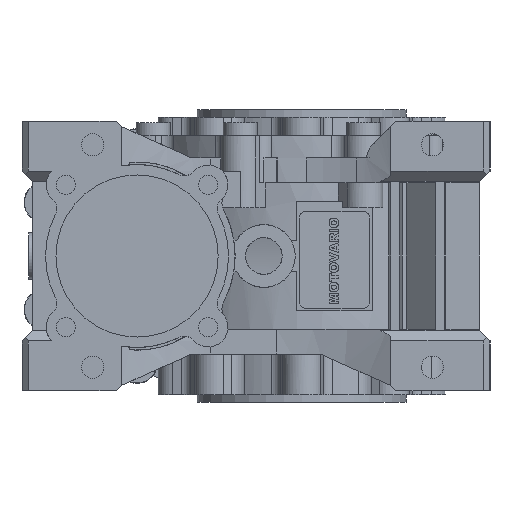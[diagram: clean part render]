
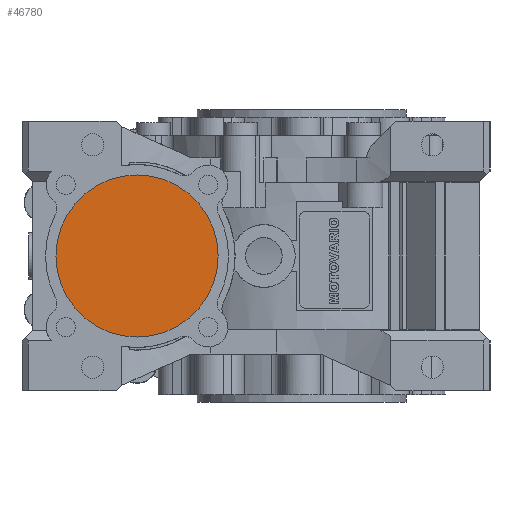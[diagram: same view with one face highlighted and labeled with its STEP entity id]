
A CAD part, left-side view. The second image highlights one B-rep face of the part: STEP entity #46780.
In plain terms, the highlighted planar face has unit normal (-1, 0, 0) as drawn and (0, 0, -1) by its records, which use the part's own axes.
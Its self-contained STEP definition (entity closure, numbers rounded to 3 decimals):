
#699=PLANE('',#49565);
#2040=CIRCLE('',#49564,31.);
#7478=ORIENTED_EDGE('',*,*,#15763,.F.);
#15763=EDGE_CURVE('',#20103,#20103,#2040,.T.);
#20103=VERTEX_POINT('',#67905);
#28490=EDGE_LOOP('',(#7478));
#30748=FACE_BOUND('',#28490,.T.);
#46780=ADVANCED_FACE('',(#30748),#699,.T.);
#49564=AXIS2_PLACEMENT_3D('',#67904,#56290,#56291);
#49565=AXIS2_PLACEMENT_3D('',#67906,#56292,#56293);
#56290=DIRECTION('',(0.,0.,1.));
#56291=DIRECTION('',(1.,0.,0.));
#56292=DIRECTION('',(0.,0.,-1.));
#56293=DIRECTION('',(-1.,0.,0.));
#67904=CARTESIAN_POINT('',(0.,63.,-70.5));
#67905=CARTESIAN_POINT('',(31.,63.,-70.5));
#67906=CARTESIAN_POINT('',(31.,63.,-70.5));
